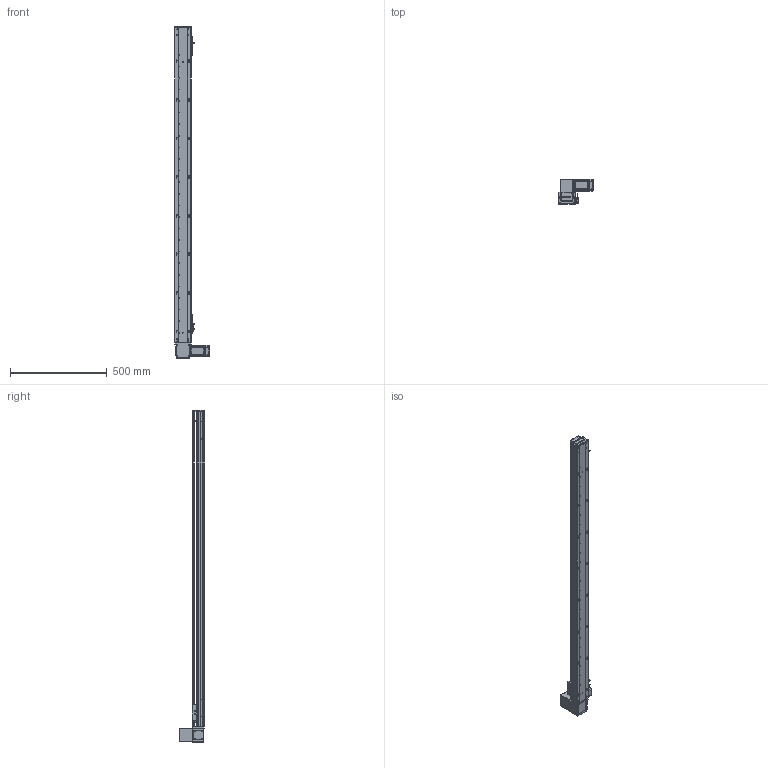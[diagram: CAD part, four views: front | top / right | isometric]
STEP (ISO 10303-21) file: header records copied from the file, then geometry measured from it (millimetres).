
FILE_DESCRIPTION (( 'STEP AP203' ), '1' );
FILE_NAME ('RY80-T-300-UR.SLDASM_1450.step', '2021-03-01T02:27:23', ( '盈信电脑' ), ( '东莞市道滘镇水果街19号' ), 'SwSTEP 2.0', 'SolidWorks 2012', '' );
FILE_SCHEMA (( 'CONFIG_CONTROL_DESIGN' ));
Length unit declared in the file: millimetre
Products named in the file (20): RY80-T肮祭謫臏賑輸; RY80-T-300-UR倰第菁釱_1450; 672嫖萇羲壽假蚾釱; RY80-T-300-UR倰第奻裔啣_1450; RY80-T綴裔啣; 覜茼ん672; RY80-T-300-UR.SLDASM_1450; RY80-T萇儂假蚾啣; 1; RY80-T-M4蹟翐2; RY80-T肮祭謫奻殏俋欶; RY80-T-上下折同步轮盖板; RY80-T翋肮祭謫裔啣; RY100-T粣創揤踡裔; RY80-T肮祭湍揤輸2; 滅袉蝶18-10; RY80-T肮祭湍揤輸1; RY80-T粣創揤踡輸; RY80俋离覜茼え; RY80-T-翋肮祭謫釱
Assembly tree (23 placements, depth 2):
  RY80-T-300-UR.SLDASM_1450
    RY80-T-300-UR倰第菁釱_1450
    RY80-T肮祭謫臏賑輸
    RY80-T-300-UR倰第奻裔啣_1450
    RY80-T綴裔啣
    672嫖萇羲壽假蚾釱  x2
    覜茼ん672  x3
    RY80俋离覜茼え
    RY80-T-翋肮祭謫釱
    RY80-T肮祭湍揤輸1
    RY80-T肮祭湍揤輸2
    RY80-T粣創揤踡輸
    滅袉蝶18-10  x2
    RY100-T粣創揤踡裔
    RY80-T翋肮祭謫裔啣
    RY80-T-上下折同步轮盖板
    1
    RY80-T肮祭謫奻殏俋欶
    RY80-T-M4蹟翐2
    RY80-T萇儂假蚾啣
Bounding box: 180 x 130.5 x 1720 mm (x, y, z)
Volume: 2775425.1 mm3; surface area: 1176230.9 mm2
Topology: 23 solids, 23 shells, 2536 faces, 7002 edges, 4550 vertices
Faces by surface type: plane 1345, cylinder 993, cone 142, bspline 56
Entity records: 81438 total; most frequent: CARTESIAN_POINT 19846, ORIENTED_EDGE 12648, DIRECTION 11904, EDGE_CURVE 6324, VERTEX_POINT 4154, AXIS2_PLACEMENT_3D 4028, LINE 3848, VECTOR 3848
